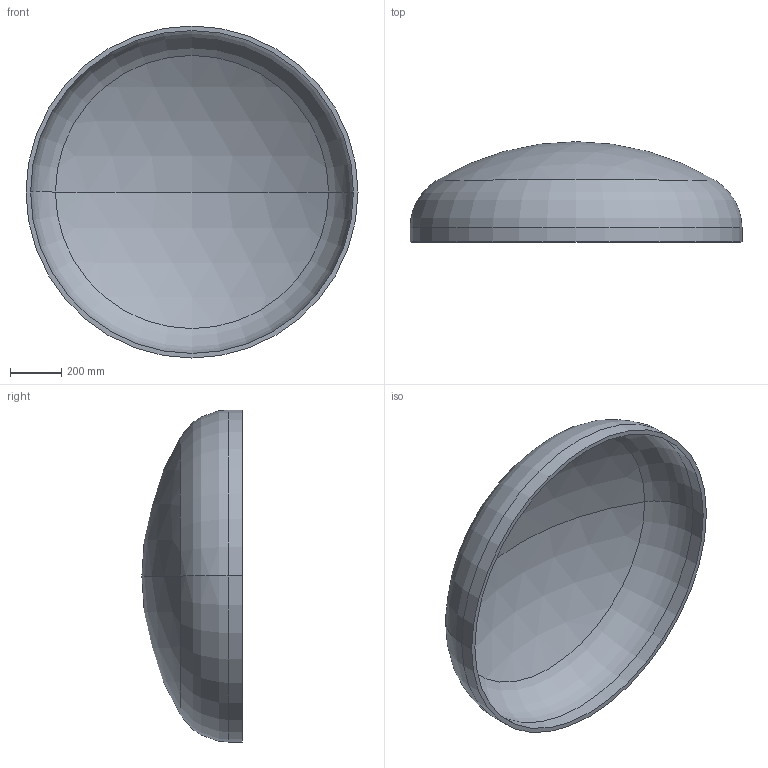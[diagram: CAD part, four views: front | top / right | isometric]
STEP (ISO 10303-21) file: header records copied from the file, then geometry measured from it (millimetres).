
FILE_DESCRIPTION (( 'STEP AP203' ), '1' );
FILE_NAME ('DIN 28013 Korbbogenform_-_Boden DIN 28013 - 1300 x 55 - I - s=18.step', '2016-07-01T09:44:50', ( '' ), ( '' ), 'SwSTEP 2.0', 'SolidWorks 2013', '' );
FILE_SCHEMA (( 'CONFIG_CONTROL_DESIGN' ));
Length unit declared in the file: millimetre
Products named in the file (1): DIN 28013 Korbbogenform_-_Boden DIN 28013 - 1300 x 55 - I - s=18
Bounding box: 1300 x 392.6 x 1300 mm (x, y, z)
Volume: 36470788.5 mm3; surface area: 4125482.4 mm2
Topology: 1 solids, 1 shells, 13 faces, 24 edges, 14 vertices
Faces by surface type: torus 4, cylinder 4, sphere 4, plane 1
Entity records: 407 total; most frequent: DIRECTION 72, CARTESIAN_POINT 52, ORIENTED_EDGE 48, AXIS2_PLACEMENT_3D 34, EDGE_CURVE 24, CIRCLE 20, VERTEX_POINT 14, EDGE_LOOP 14
